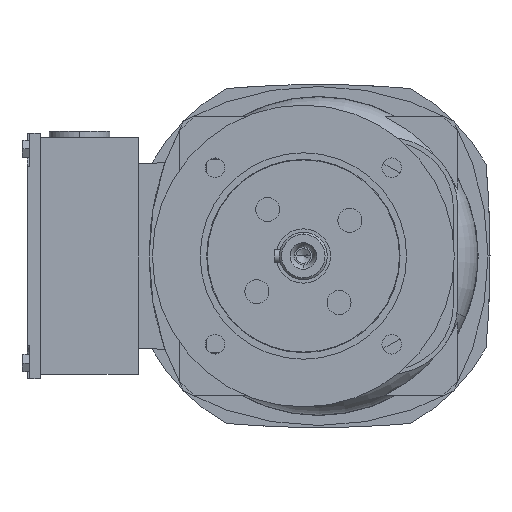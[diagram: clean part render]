
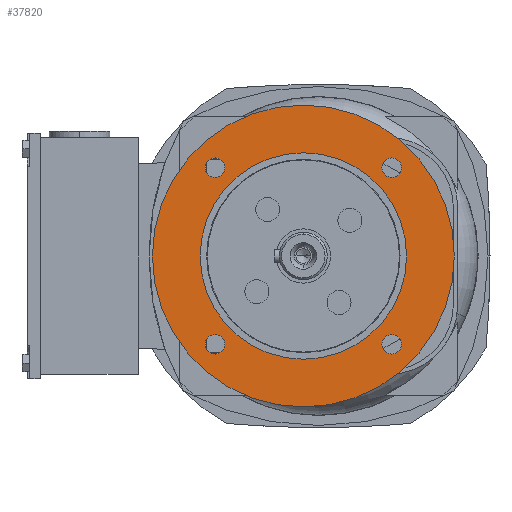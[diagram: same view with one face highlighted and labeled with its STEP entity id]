
A CAD part, left-side view. The second image highlights one B-rep face of the part: STEP entity #37820.
In plain terms, the highlighted planar face has unit normal (-1, 0, 0) as drawn and (0, 0, -1) by its records, which use the part's own axes.
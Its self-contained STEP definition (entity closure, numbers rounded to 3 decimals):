
#35060=CARTESIAN_POINT('',(0.,76.483,-110.5));
#35070=VERTEX_POINT('',#35060);
#35100=CARTESIAN_POINT('',(0.,7.,-110.5));
#35110=DIRECTION('',(0.,0.,-1.));
#35120=DIRECTION('',(0.,-1.,0.));
#35130=AXIS2_PLACEMENT_3D('',#35100,#35110,#35120);
#35140=CIRCLE('',#35130,69.483);
#35150=CARTESIAN_POINT('',(0.,-62.483,-110.5));
#35160=VERTEX_POINT('',#35150);
#35170=EDGE_CURVE('',#35070,#35160,#35140,.T.);
#35800=CARTESIAN_POINT('',(45.159,-33.659,-110.5));
#35810=VERTEX_POINT('',#35800);
#35970=CARTESIAN_POINT('',(36.159,-33.659,-110.5));
#35980=VERTEX_POINT('',#35970);
#36010=CARTESIAN_POINT('',(40.659,-33.659,-110.5));
#36020=DIRECTION('',(0.,0.,-1.));
#36030=DIRECTION('',(-1.,0.,0.));
#36040=AXIS2_PLACEMENT_3D('',#36010,#36020,#36030);
#36050=CIRCLE('',#36040,4.5);
#36060=EDGE_CURVE('',#35810,#35980,#36050,.T.);
#36220=CARTESIAN_POINT('',(-36.159,47.659,-110.5));
#36230=VERTEX_POINT('',#36220);
#36390=CARTESIAN_POINT('',(-45.159,47.659,-110.5));
#36400=VERTEX_POINT('',#36390);
#36430=CARTESIAN_POINT('',(-40.659,47.659,-110.5));
#36440=DIRECTION('',(0.,0.,-1.));
#36450=DIRECTION('',(-1.,0.,0.));
#36460=AXIS2_PLACEMENT_3D('',#36430,#36440,#36450);
#36470=CIRCLE('',#36460,4.5);
#36480=EDGE_CURVE('',#36230,#36400,#36470,.T.);
#36640=CARTESIAN_POINT('',(-36.159,-33.659,-110.5));
#36650=VERTEX_POINT('',#36640);
#36810=CARTESIAN_POINT('',(-45.159,-33.659,-110.5));
#36820=VERTEX_POINT('',#36810);
#36850=CARTESIAN_POINT('',(-40.659,-33.659,-110.5));
#36860=DIRECTION('',(0.,0.,-1.));
#36870=DIRECTION('',(-1.,0.,0.));
#36880=AXIS2_PLACEMENT_3D('',#36850,#36860,#36870);
#36890=CIRCLE('',#36880,4.5);
#36900=EDGE_CURVE('',#36650,#36820,#36890,.T.);
#37060=CARTESIAN_POINT('',(45.159,47.659,-110.5));
#37070=VERTEX_POINT('',#37060);
#37230=CARTESIAN_POINT('',(36.159,47.659,-110.5));
#37240=VERTEX_POINT('',#37230);
#37270=CARTESIAN_POINT('',(40.659,47.659,-110.5));
#37280=DIRECTION('',(0.,0.,-1.));
#37290=DIRECTION('',(-1.,0.,0.));
#37300=AXIS2_PLACEMENT_3D('',#37270,#37280,#37290);
#37310=CIRCLE('',#37300,4.5);
#37320=EDGE_CURVE('',#37070,#37240,#37310,.T.);
#37370=CARTESIAN_POINT('',(-62.448,7.,-110.5));
#37380=DIRECTION('',(0.,0.,1.));
#37390=DIRECTION('',(-1.,0.,0.));
#37400=AXIS2_PLACEMENT_3D('',#37370,#37380,#37390);
#37410=PLANE('',#37400);
#37420=EDGE_CURVE('',#37240,#37070,#37310,.T.);
#37430=ORIENTED_EDGE('',*,*,#37420,.F.);
#37440=ORIENTED_EDGE('',*,*,#37320,.F.);
#37450=EDGE_LOOP('',(#37440,#37430));
#37460=FACE_BOUND('',#37450,.T.);
#37470=EDGE_CURVE('',#36400,#36230,#36470,.T.);
#37480=ORIENTED_EDGE('',*,*,#37470,.F.);
#37490=ORIENTED_EDGE('',*,*,#36480,.F.);
#37500=EDGE_LOOP('',(#37490,#37480));
#37510=FACE_BOUND('',#37500,.T.);
#37520=CARTESIAN_POINT('',(0.,7.,-110.5));
#37530=DIRECTION('',(0.,0.,1.));
#37540=DIRECTION('',(-1.,0.,0.));
#37550=AXIS2_PLACEMENT_3D('',#37520,#37530,#37540);
#37560=CIRCLE('',#37550,47.5);
#37570=CARTESIAN_POINT('',(-47.5,7.,-110.5));
#37580=VERTEX_POINT('',#37570);
#37590=CARTESIAN_POINT('',(47.5,7.,-110.5));
#37600=VERTEX_POINT('',#37590);
#37610=EDGE_CURVE('',#37580,#37600,#37560,.T.);
#37620=ORIENTED_EDGE('',*,*,#37610,.T.);
#37630=EDGE_CURVE('',#37600,#37580,#37560,.T.);
#37640=ORIENTED_EDGE('',*,*,#37630,.T.);
#37650=EDGE_LOOP('',(#37640,#37620));
#37660=FACE_BOUND('',#37650,.T.);
#37670=EDGE_CURVE('',#36820,#36650,#36890,.T.);
#37680=ORIENTED_EDGE('',*,*,#37670,.F.);
#37690=ORIENTED_EDGE('',*,*,#36900,.F.);
#37700=EDGE_LOOP('',(#37690,#37680));
#37710=FACE_BOUND('',#37700,.T.);
#37720=EDGE_CURVE('',#35980,#35810,#36050,.T.);
#37730=ORIENTED_EDGE('',*,*,#37720,.F.);
#37740=ORIENTED_EDGE('',*,*,#36060,.F.);
#37750=EDGE_LOOP('',(#37740,#37730));
#37760=FACE_BOUND('',#37750,.T.);
#37770=EDGE_CURVE('',#35160,#35070,#35140,.T.);
#37780=ORIENTED_EDGE('',*,*,#37770,.T.);
#37790=ORIENTED_EDGE('',*,*,#35170,.T.);
#37800=EDGE_LOOP('',(#37790,#37780));
#37810=FACE_OUTER_BOUND('',#37800,.T.);
#37820=ADVANCED_FACE('',(#37460,#37510,#37660,#37710,#37760,#37810),#37410,.F.);
